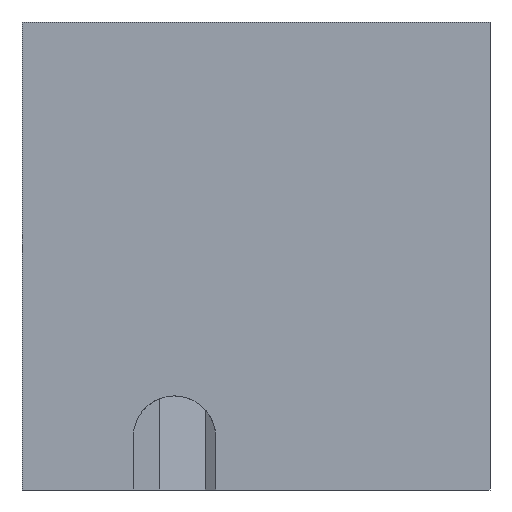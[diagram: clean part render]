
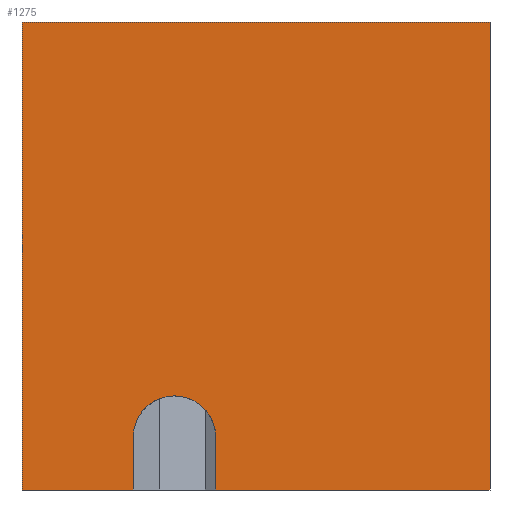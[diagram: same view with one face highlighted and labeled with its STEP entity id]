
A CAD part, front view. The second image highlights one B-rep face of the part: STEP entity #1275.
In plain terms, the highlighted planar face has unit normal (0, -1, 0).
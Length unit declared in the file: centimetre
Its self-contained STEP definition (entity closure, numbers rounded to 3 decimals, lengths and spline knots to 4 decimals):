
#38 = FACE_OUTER_BOUND ( 'NONE', #745, .T. ) ;
#56 = EDGE_CURVE ( 'NONE', #861, #684, #970, .T. ) ;
#85 = VERTEX_POINT ( 'NONE', #107 ) ;
#87 = EDGE_CURVE ( 'NONE', #1065, #861, #1151, .T. ) ;
#107 = CARTESIAN_POINT ( 'NONE',  ( 1000., 0., 0. ) ) ;
#113 = CARTESIAN_POINT ( 'NONE',  ( 1000., 0., 1000. ) ) ;
#115 = LINE ( 'NONE', #591, #521 ) ;
#169 = LINE ( 'NONE', #113, #1585 ) ;
#174 = VERTEX_POINT ( 'NONE', #822 ) ;
#176 = CARTESIAN_POINT ( 'NONE',  ( 0., 0., 1000. ) ) ;
#182 = DIRECTION ( 'NONE',  ( 1., 0., 0. ) ) ;
#238 = DIRECTION ( 'NONE',  ( 1., 0., 0. ) ) ;
#284 = CARTESIAN_POINT ( 'NONE',  ( 413.7976, 0., 112.9825 ) ) ;
#311 = CARTESIAN_POINT ( 'NONE',  ( 413.7976, 0., 0. ) ) ;
#345 = CARTESIAN_POINT ( 'NONE',  ( 413.7976, 0., 112.9825 ) ) ;
#359 = DIRECTION ( 'NONE',  ( 0., 0., 1. ) ) ;
#435 = ORIENTED_EDGE ( 'NONE', *, *, #1473, .T. ) ;
#476 = DIRECTION ( 'NONE',  ( 0., 0., -1. ) ) ;
#521 = VECTOR ( 'NONE', #616, 100. ) ;
#525 = ORIENTED_EDGE ( 'NONE', *, *, #927, .F. ) ;
#561 = EDGE_CURVE ( 'NONE', #836, #85, #678, .T. ) ;
#591 = CARTESIAN_POINT ( 'NONE',  ( 0., 0., 1000. ) ) ;
#601 = EDGE_CURVE ( 'NONE', #836, #1065, #1447, .T. ) ;
#604 = ORIENTED_EDGE ( 'NONE', *, *, #1488, .F. ) ;
#616 = DIRECTION ( 'NONE',  ( 1., 0., 0. ) ) ;
#649 = VERTEX_POINT ( 'NONE', #1064 ) ;
#656 = AXIS2_PLACEMENT_3D ( 'NONE', #176, #789, #925 ) ;
#671 = CARTESIAN_POINT ( 'NONE',  ( 237.4786, 0., 0. ) ) ;
#678 = LINE ( 'NONE', #1317, #1187 ) ;
#681 = CARTESIAN_POINT ( 'NONE',  ( 237.4786, 0., 112.9825 ) ) ;
#684 = VERTEX_POINT ( 'NONE', #671 ) ;
#704 = ORIENTED_EDGE ( 'NONE', *, *, #87, .F. ) ;
#719 = CARTESIAN_POINT ( 'NONE',  ( 325.6381, 0., 112.9825 ) ) ;
#727 = LINE ( 'NONE', #996, #790 ) ;
#745 = EDGE_LOOP ( 'NONE', ( #435, #1451, #704, #1121, #1576, #525, #604, #990 ) ) ;
#754 = LINE ( 'NONE', #1016, #1324 ) ;
#782 = PLANE ( 'NONE',  #656 ) ;
#789 = DIRECTION ( 'NONE',  ( 0., 1., 0. ) ) ;
#790 = VECTOR ( 'NONE', #238, 100. ) ;
#822 = CARTESIAN_POINT ( 'NONE',  ( 0., 0., 0. ) ) ;
#836 = VERTEX_POINT ( 'NONE', #311 ) ;
#844 = DIRECTION ( 'NONE',  ( 0., -1., 0. ) ) ;
#861 = VERTEX_POINT ( 'NONE', #681 ) ;
#869 = VECTOR ( 'NONE', #1300, 100. ) ;
#884 = DIRECTION ( 'NONE',  ( 0., 0., -1. ) ) ;
#914 = VECTOR ( 'NONE', #1081, 100. ) ;
#925 = DIRECTION ( 'NONE',  ( 0., 0., 1. ) ) ;
#927 = EDGE_CURVE ( 'NONE', #649, #85, #169, .T. ) ;
#970 = LINE ( 'NONE', #1614, #914 ) ;
#990 = ORIENTED_EDGE ( 'NONE', *, *, #1179, .T. ) ;
#996 = CARTESIAN_POINT ( 'NONE',  ( 0., 0., 0. ) ) ;
#1016 = CARTESIAN_POINT ( 'NONE',  ( 0., 0., 1000. ) ) ;
#1064 = CARTESIAN_POINT ( 'NONE',  ( 1000., 0., 1000. ) ) ;
#1065 = VERTEX_POINT ( 'NONE', #345 ) ;
#1066 = AXIS2_PLACEMENT_3D ( 'NONE', #719, #844, #359 ) ;
#1068 = CARTESIAN_POINT ( 'NONE',  ( 0., 0., 1000. ) ) ;
#1081 = DIRECTION ( 'NONE',  ( 0., 0., -1. ) ) ;
#1121 = ORIENTED_EDGE ( 'NONE', *, *, #601, .F. ) ;
#1151 = CIRCLE ( 'NONE', #1066, 88.1595 ) ;
#1179 = EDGE_CURVE ( 'NONE', #1347, #174, #754, .T. ) ;
#1187 = VECTOR ( 'NONE', #182, 100. ) ;
#1275 = ADVANCED_FACE ( 'NONE', ( #38 ), #782, .F. ) ;
#1300 = DIRECTION ( 'NONE',  ( 0., 0., 1. ) ) ;
#1317 = CARTESIAN_POINT ( 'NONE',  ( 0., 0., 0. ) ) ;
#1324 = VECTOR ( 'NONE', #884, 100. ) ;
#1347 = VERTEX_POINT ( 'NONE', #1068 ) ;
#1447 = LINE ( 'NONE', #284, #869 ) ;
#1451 = ORIENTED_EDGE ( 'NONE', *, *, #56, .F. ) ;
#1473 = EDGE_CURVE ( 'NONE', #174, #684, #727, .T. ) ;
#1488 = EDGE_CURVE ( 'NONE', #1347, #649, #115, .T. ) ;
#1576 = ORIENTED_EDGE ( 'NONE', *, *, #561, .T. ) ;
#1585 = VECTOR ( 'NONE', #476, 100. ) ;
#1614 = CARTESIAN_POINT ( 'NONE',  ( 237.4786, 0., 0. ) ) ;
